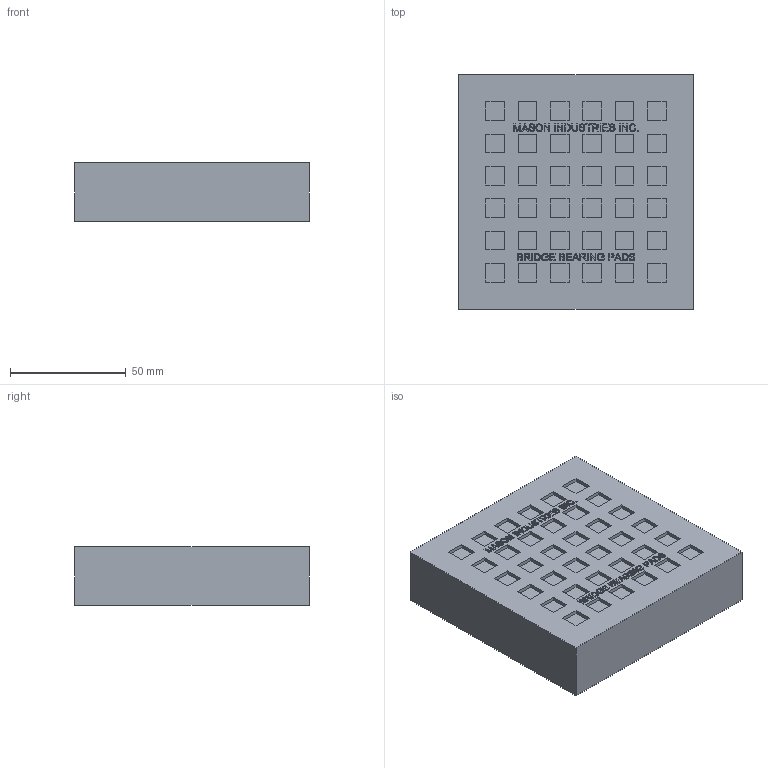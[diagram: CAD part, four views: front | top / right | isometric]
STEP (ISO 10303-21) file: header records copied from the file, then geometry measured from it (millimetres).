
FILE_DESCRIPTION(/* description */ (''),/* implementation_level */ '2;1');
FILE_NAME(/* name */ 'C:\001_Work\Designs\BBNR\BBNR 4 x 4 x 1.stp',/* time_stamp */ '2015-08-20T16:16:07-04:00',/* author */ ('rramoutar'),/* organization */ ('Mason Industries Inc.'),/* preprocessor_version */ 'ST-DEVELOPER v15.6',/* originating_system */ 'Autodesk Inventor 2015',/* authorisation */ '');
FILE_SCHEMA (('AUTOMOTIVE_DESIGN { 1 0 10303 214 3 1 1 }'));
Length unit declared in the file: inch
Products named in the file (1): BBNR 4 x 4 x 1
Bounding box: 101.6 x 101.6 x 25.8 mm (x, y, z)
Volume: 254922.4 mm3; surface area: 34855.1 mm2
Topology: 1 solids, 1 shells, 1338 faces, 3486 edges, 2324 vertices
Faces by surface type: plane 986, bspline 352
Entity records: 43895 total; most frequent: CARTESIAN_POINT 13300, ORIENTED_EDGE 6972, DIRECTION 4756, EDGE_CURVE 3486, LINE 2782, VECTOR 2782, VERTEX_POINT 2324, EDGE_LOOP 1512
